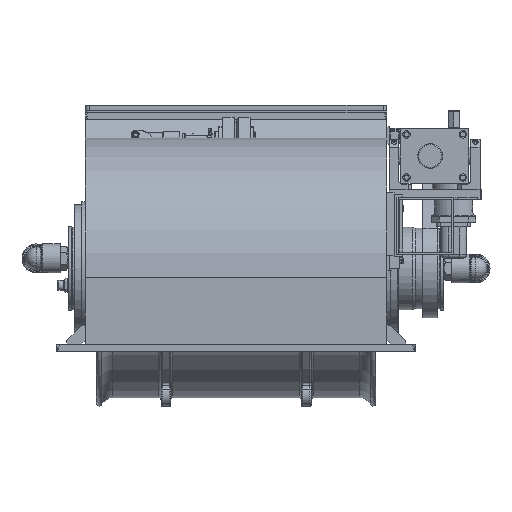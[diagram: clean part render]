
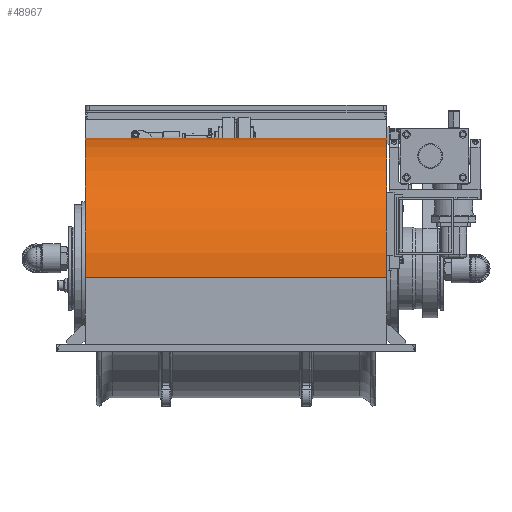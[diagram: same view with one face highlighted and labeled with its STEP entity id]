
A CAD part, front view. The second image highlights one B-rep face of the part: STEP entity #48967.
In plain terms, the highlighted cylindrical face has radius 372 mm (diameter 744 mm), a partial arc.
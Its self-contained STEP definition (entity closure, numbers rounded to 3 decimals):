
#4159=LINE('',#83676,#8097);
#4166=LINE('',#83689,#8104);
#8097=VECTOR('',#63016,10.);
#8104=VECTOR('',#63031,10.);
#12347=FACE_OUTER_BOUND('',#15141,.T.);
#15141=EDGE_LOOP('',(#39196,#39197,#39198,#39199));
#17524=CIRCLE('',#52671,372.);
#17525=CIRCLE('',#52679,372.);
#22042=VERTEX_POINT('',#83673);
#22043=VERTEX_POINT('',#83675);
#22044=VERTEX_POINT('',#83684);
#22045=VERTEX_POINT('',#83688);
#28076=EDGE_CURVE('',#22042,#22043,#4159,.T.);
#28082=EDGE_CURVE('',#22043,#22044,#17524,.T.);
#28084=EDGE_CURVE('',#22045,#22044,#4166,.T.);
#28109=EDGE_CURVE('',#22045,#22042,#17525,.T.);
#39196=ORIENTED_EDGE('',*,*,#28076,.F.);
#39197=ORIENTED_EDGE('',*,*,#28109,.F.);
#39198=ORIENTED_EDGE('',*,*,#28084,.T.);
#39199=ORIENTED_EDGE('',*,*,#28082,.F.);
#44297=CYLINDRICAL_SURFACE('',#52681,372.);
#48967=ADVANCED_FACE('',(#12347),#44297,.T.);
#52671=AXIS2_PLACEMENT_3D('',#83685,#63026,#63027);
#52679=AXIS2_PLACEMENT_3D('',#83730,#63068,#63069);
#52681=AXIS2_PLACEMENT_3D('',#83732,#63072,#63073);
#63016=DIRECTION('',(1.,0.,0.));
#63026=DIRECTION('center_axis',(1.,0.,0.));
#63027=DIRECTION('ref_axis',(0.,0.,
1.));
#63031=DIRECTION('',(1.,0.,0.));
#63068=DIRECTION('center_axis',(-1.,0.,0.));
#63069=DIRECTION('ref_axis',(0.,-1.,0.));
#63072=DIRECTION('center_axis',(-1.,0.,0.));
#63073=DIRECTION('ref_axis',(0.,-1.,0.));
#83673=CARTESIAN_POINT('',(-159.919,-310.37,537.5));
#83675=CARTESIAN_POINT('',(644.081,-310.37,537.5));
#83676=CARTESIAN_POINT('',(242.081,-310.37,537.5));
#83684=CARTESIAN_POINT('',(644.081,-682.37,165.5));
#83685=CARTESIAN_POINT('Origin',(644.081,-310.37,165.5));
#83688=CARTESIAN_POINT('',(-159.919,-682.37,165.5));
#83689=CARTESIAN_POINT('',(242.081,-682.37,165.5));
#83730=CARTESIAN_POINT('Origin',(-159.919,-310.37,165.5));
#83732=CARTESIAN_POINT('Origin',(242.081,-310.37,165.5));
